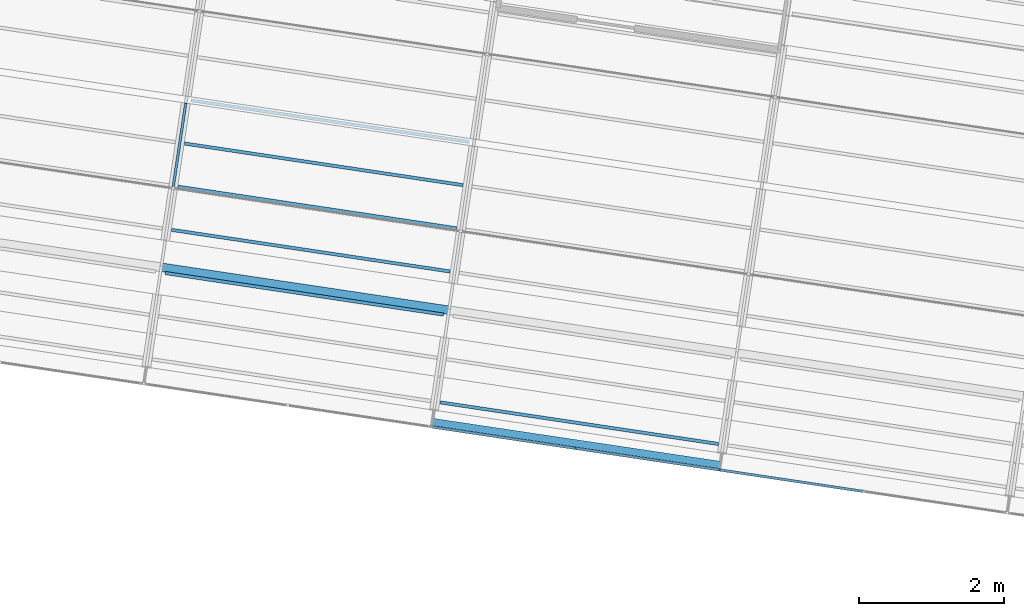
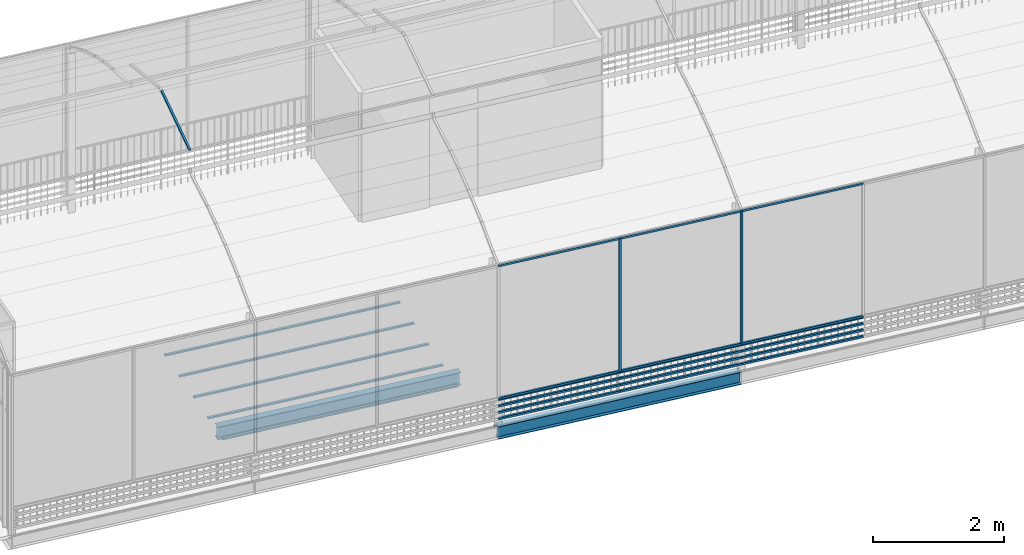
# One storey, part 4 of 34: 23 members, 8 beams, 1 element without a shape of its own.
"""IFC4 building model written with IfcOpenShell, lengths in metres."""

import ifcopenshell
import ifcopenshell.guid

model = None  # the IFC model being written
_history = None  # IfcOwnerHistory: only IFC2X3 demands one
_inside = {}  # id of a spatial element -> (the spatial element, [elements in it])
_under = {}  # id of a project, library or spatial element -> (it, [spatial elements below it])
_declared = {}  # id of a project -> (the project, [libraries it declares])
_typed = {}  # id of a type object -> (the type object, [elements of that type])
_made_of = {}  # id of a material, layer set ... -> (it, [elements and type objects made of it])


def new_model(schema):
    """Start an empty IFC model of exactly this schema.

    Asked for "IFC4X3", IfcOpenShell would pick the latest addendum, in which some entities
    have other attributes; the version numbers below select the first issue.
    IFC2X3 requires an IfcOwnerHistory on every rooted entity: one is made here for all.
    """
    global model, _history
    if schema == "IFC4X3":
        model = ifcopenshell.file(schema_version=(4, 3, 0, 0))
    else:
        model = ifcopenshell.file(schema=schema)
    _inside.clear()
    _under.clear()
    _declared.clear()
    _typed.clear()
    _made_of.clear()
    _history = None
    if model.schema == "IFC2X3":
        org = make("IfcOrganization", Name="unknown")
        user = make(
            "IfcPersonAndOrganization",
            ThePerson=make("IfcPerson", FamilyName="unknown"),
            TheOrganization=org,
        )
        app = make(
            "IfcApplication",
            ApplicationDeveloper=org,
            Version="unknown",
            ApplicationFullName="unknown",
            ApplicationIdentifier="unknown",
        )
        _history = make(
            "IfcOwnerHistory",
            OwningUser=user,
            OwningApplication=app,
            ChangeAction="ADDED",
            CreationDate=0,
        )
    return model


def make(cls, **values):
    """One entity of the class cls with the attributes given. An attribute that is None is left unset."""
    return model.create_entity(
        cls, **{name: value for name, value in values.items() if value is not None}
    )


def rooted(cls, **values):
    """An entity with a GlobalId (a new one), such as an element, a storey or a relation."""
    return make(cls, GlobalId=ifcopenshell.guid.new(), OwnerHistory=_history, **values)


def si_unit(unit_type, name, prefix=None):
    """IfcSIUnit, for example si_unit("LENGTHUNIT", "METRE", prefix="MILLI")."""
    return make("IfcSIUnit", UnitType=unit_type, Prefix=prefix, Name=name)


def assignment(units):
    """IfcUnitAssignment: the units of a project."""
    return None if units is None else make("IfcUnitAssignment", Units=units)


def point(xyz):
    """IfcCartesianPoint."""
    return None if xyz is None else make("IfcCartesianPoint", Coordinates=xyz)


def direction(xyz):
    """IfcDirection."""
    return None if xyz is None else make("IfcDirection", DirectionRatios=xyz)


def frame(location, z_axis=None, x_axis=None):
    """IfcAxis2Placement3D, a coordinate frame: its origin and axes. An axis left out is left unset."""
    return make(
        "IfcAxis2Placement3D",
        Location=point(location),
        Axis=direction(z_axis),
        RefDirection=direction(x_axis),
    )


def origin_with_axes():
    """The frame at (0, 0, 0) with the z axis (0, 0, 1) and the x axis (1, 0, 0) written out."""
    return frame((0.0, 0.0, 0.0), z_axis=(0.0, 0.0, 1.0), x_axis=(1.0, 0.0, 0.0))


def place(relative_to, where):
    """IfcLocalPlacement: puts the frame where relative to a parent placement (None: the world)."""
    return make(
        "IfcLocalPlacement", PlacementRelTo=relative_to, RelativePlacement=where
    )


def context(
    kind, dimensions, precision=None, world=None, true_north=None, identifier=None
):
    """IfcGeometricRepresentationContext, for example the 3D "Model" context."""
    return make(
        "IfcGeometricRepresentationContext",
        ContextIdentifier=identifier,
        ContextType=kind,
        CoordinateSpaceDimension=dimensions,
        Precision=precision,
        WorldCoordinateSystem=world,
        TrueNorth=true_north,
    )


def subcontext(parent, identifier, kind, view, scale=None):
    """IfcGeometricRepresentationSubContext, for example "Body" below "Model"."""
    return make(
        "IfcGeometricRepresentationSubContext",
        ContextIdentifier=identifier,
        ContextType=kind,
        ParentContext=parent,
        TargetScale=scale,
        TargetView=view,
    )


def project(units=None, contexts=None):
    """IfcProject with its units and contexts."""
    return rooted(
        "IfcProject",
        Name="project",
        RepresentationContexts=contexts,
        UnitsInContext=assignment(units),
    )


def spatial(cls, under=None, at=None, **own):
    """A site, building, storey or space (cls), placed at a placement, below another one or the project."""
    s = rooted(cls, ObjectPlacement=at, **own)
    if under is not None:
        _under.setdefault(under.id(), (under, []))[1].append(s)
    return s


def polyline(points):
    """IfcPolyline through the points."""
    return make("IfcPolyline", Points=[point(p) for p in points])


def profile(cls, at=None, kind="AREA", **sizes):
    """A parametric profile (cls). Its sizes go by their IFC names, for example OverallWidth=200.0."""
    return make(cls, ProfileType=kind, Position=at, **sizes)


def rectangle(**sizes):
    """IfcRectangleProfileDef."""
    return profile("IfcRectangleProfileDef", **sizes)


def i_section(**sizes):
    """IfcIShapeProfileDef."""
    return profile("IfcIShapeProfileDef", **sizes)


def outline(outer, holes=None, kind="AREA"):
    """IfcArbitraryClosedProfileDef: a profile drawn as a closed curve; with holes, ...WithVoids."""
    if holes is None:
        return make("IfcArbitraryClosedProfileDef", ProfileType=kind, OuterCurve=outer)
    return make(
        "IfcArbitraryProfileDefWithVoids",
        ProfileType=kind,
        OuterCurve=outer,
        InnerCurves=holes,
    )


def extrude(swept, where, along, depth):
    """IfcExtrudedAreaSolid: the profile swept, set in the frame where, extruded along a direction by depth."""
    return make(
        "IfcExtrudedAreaSolid",
        SweptArea=swept,
        Position=where,
        ExtrudedDirection=direction(along),
        Depth=depth,
    )


def shape(context_of_items, identifier, shape_type, items):
    """IfcShapeRepresentation: the items that make up one representation, for example the "Body"."""
    return make(
        "IfcShapeRepresentation",
        ContextOfItems=context_of_items,
        RepresentationIdentifier=identifier,
        RepresentationType=shape_type,
        Items=items,
    )


def material(Name=None, Category=None):
    """IfcMaterial."""
    return make("IfcMaterial", Name=Name, Category=Category)


def material_profile(
    of_material, cross_section, Name=None, Category=None, Priority=None
):
    """IfcMaterialProfile: a cross section and its material."""
    return make(
        "IfcMaterialProfile",
        Name=Name,
        Material=of_material,
        Profile=cross_section,
        Priority=Priority,
        Category=Category,
    )


def profile_set(profiles, Name=None, composite=None):
    """IfcMaterialProfileSet."""
    return make(
        "IfcMaterialProfileSet",
        Name=Name,
        MaterialProfiles=profiles,
        CompositeProfile=composite,
    )


def profile_usage(for_profile_set, cardinal=None, extent=None):
    """IfcMaterialProfileSetUsage: how a profile set lies along its element."""
    return make(
        "IfcMaterialProfileSetUsage",
        ForProfileSet=for_profile_set,
        CardinalPoint=cardinal,
        ReferenceExtent=extent,
    )


def made_of(thing, what):
    """Note that an element or type object is made of a material, layer set ...; save() writes the relation."""
    if what is not None:
        _made_of.setdefault(what.id(), (what, []))[1].append(thing)
    return thing


def type_object(cls, material=None, **own):
    """A type object (cls), such as IfcWallType, which elements share."""
    return made_of(rooted(cls, **own), material)


def element(
    cls,
    number,
    at=None,
    inside=None,
    cuts=None,
    type_object=None,
    material=None,
    context=None,
    identifier="Body",
    shape_type=None,
    held_by="IfcProductDefinitionShape",
    body=None,
    shapes=None,
    **own,
):
    """One element of the class cls, such as IfcWall. Its Tag is "e" and its number.

    at: its placement. inside: the storey or other place that contains it. cuts: it is an
    opening in that element (IfcRelVoidsElement). A single representation is given by context,
    identifier, shape_type and body (its items); several are given by shapes. held_by: the class
    of the entity that holds the representations. save() writes the other relations.
    """
    e = rooted(cls, Tag="e%d" % number, ObjectPlacement=at, **own)
    if body is not None:
        shapes = [shape(context, identifier, shape_type, body)]
    if shapes is not None:
        e.Representation = make(held_by, Representations=shapes)
    if inside is not None:
        _inside.setdefault(inside.id(), (inside, []))[1].append(e)
    if cuts is not None:
        rooted(
            "IfcRelVoidsElement", RelatingBuildingElement=cuts, RelatedOpeningElement=e
        )
    if type_object is not None:
        _typed.setdefault(type_object.id(), (type_object, []))[1].append(e)
    return made_of(e, material)


def aggregate(whole, parts):
    """IfcRelAggregates: a whole, such as a stair, and the parts it consists of."""
    return rooted("IfcRelAggregates", RelatingObject=whole, RelatedObjects=parts)


def save(model, path):
    """Write the relations noted so far, then the file.

    IfcRelAggregates (storeys below a building ...), IfcRelContainedInSpatialStructure (elements
    in a storey), IfcRelDefinesByType, IfcRelAssociatesMaterial and IfcRelDeclares: one each for
    every whole, place, type object, material and project.
    """
    for whole, parts in _under.values():
        aggregate(whole, parts)
    for where, things in _inside.values():
        rooted(
            "IfcRelContainedInSpatialStructure",
            RelatedElements=things,
            RelatingStructure=where,
        )
    for kind, things in _typed.values():
        rooted("IfcRelDefinesByType", RelatedObjects=things, RelatingType=kind)
    for what, things in _made_of.values():
        rooted("IfcRelAssociatesMaterial", RelatedObjects=things, RelatingMaterial=what)
    for by, libraries in _declared.values():
        rooted("IfcRelDeclares", RelatingContext=by, RelatedDefinitions=libraries)
    model.write(path)


model = new_model("IFC4")

# Units and contexts
model_context = context("Model", 3, precision=1e-05, world=origin_with_axes(), true_north=direction((0.0, 1.0)))
body_context = subcontext(model_context, "Body", "Model", "MODEL_VIEW")
ifc_project = project(units=[si_unit("AREAUNIT", "SQUARE_METRE"), si_unit("VOLUMEUNIT", "CUBIC_METRE"), si_unit("LENGTHUNIT", "METRE")], contexts=[model_context])

# Site, building, storey
site_placement = place(None, origin_with_axes())
site = spatial("IfcSite", under=ifc_project, at=site_placement, Name="Lares · Rua das Mercês · artigo 4771")
building_placement = place(site_placement, frame((15.0, 9.7, 14.65), z_axis=(0.0, 0.0, 1.0), x_axis=(0.989015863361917, -0.147809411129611, 0.0)))
building = spatial("IfcBuilding", under=site, at=building_placement, Name="Casa Sobreposta")
storey_placement = place(building_placement, frame((0.0, 0.0, 3.24), z_axis=(0.0, 0.0, 1.0), x_axis=(1.0, 0.0, 0.0)))
storey = spatial("IfcBuildingStorey", under=building, at=storey_placement, Name="01 · Jardim de inverno", Elevation=17.89)

# Beams
ifc_material_1 = material(Name="Aço pintado / Stahl lackiert", Category="steel")
ifc_material_profile_1 = material_profile(ifc_material_1, i_section(OverallWidth=0.12, OverallDepth=0.24, WebThickness=0.0062, FlangeThickness=0.0098))
ifc_profile_set_1 = profile_set([ifc_material_profile_1], Name="IPE240")
ifc_profile_usage_1 = profile_usage(ifc_profile_set_1)
beam_type = type_object("IfcBeamType", Name="IPE240 / steel", PredefinedType="NOTDEFINED", material=ifc_profile_set_1)
beam_1_placement = place(storey_placement, frame((4.0, 0.12, -0.152), z_axis=(1.0, 0.0, 0.0), x_axis=(0.0, -1.0, 0.0)))
element("IfcBeam", 1, at=beam_1_placement, inside=storey, type_object=beam_type, material=ifc_profile_usage_1, Name="Viga longitudinal 4 / 0.12", context=body_context, shape_type="SweptSolid", body=[
    extrude(i_section(OverallWidth=0.12, OverallDepth=0.24, WebThickness=0.0062, FlangeThickness=0.0098), origin_with_axes(), (0.0, 0.0, 1.0), 4.0),
])
ifc_profile_usage_2 = profile_usage(ifc_profile_set_1)
beam_2_placement = place(storey_placement, frame((8.0, -1.44, -0.152), z_axis=(1.0, 0.0, 0.0), x_axis=(0.0, -1.0, 0.0)))
element("IfcBeam", 2, at=beam_2_placement, inside=storey, type_object=beam_type, material=ifc_profile_usage_2, Name="Viga longitudinal 8 / -1.44", context=body_context, shape_type="SweptSolid", body=[
    extrude(i_section(OverallWidth=0.12, OverallDepth=0.24, WebThickness=0.0062, FlangeThickness=0.0098), origin_with_axes(), (0.0, 0.0, 1.0), 4.0),
])

# Members
ifc_material_profile_2 = material_profile(ifc_material_1, rectangle(XDim=0.035, YDim=0.035))
ifc_profile_set_2 = profile_set([ifc_material_profile_2], Name="R0.035")
ifc_profile_usage_3 = profile_usage(ifc_profile_set_2)
member_type = type_object("IfcMemberType", Name="R0.035 / steel", PredefinedType="NOTDEFINED", material=ifc_profile_set_2)
member_1_placement = place(storey_placement, frame((10.0, -1.5, 0.5), z_axis=(0.0, 0.0, 1.0), x_axis=(1.0, 0.0, 0.0)))
element("IfcMember", 3, at=member_1_placement, inside=storey, type_object=member_type, material=ifc_profile_usage_3, context=body_context, shape_type="SweptSolid", body=[
    extrude(rectangle(XDim=0.035, YDim=0.035), origin_with_axes(), (0.0, 0.0, 1.0), 2.48),
])
ifc_profile_usage_4 = profile_usage(ifc_profile_set_2)
member_2_placement = place(storey_placement, frame((8.0, -1.5, 0.5), z_axis=(1.0, 0.0, 0.0), x_axis=(0.0, -1.0, 0.0)))
element("IfcMember", 4, at=member_2_placement, inside=storey, type_object=member_type, material=ifc_profile_usage_4, Name="Estufa sul 5 · travessa", context=body_context, shape_type="SweptSolid", body=[
    extrude(rectangle(XDim=0.035, YDim=0.035), origin_with_axes(), (0.0, 0.0, 1.0), 2.0),
])
ifc_profile_usage_5 = profile_usage(ifc_profile_set_2)
member_3_placement = place(storey_placement, frame((8.0, -1.5, 2.98), z_axis=(1.0, 0.0, 0.0), x_axis=(0.0, -1.0, 0.0)))
element("IfcMember", 5, at=member_3_placement, inside=storey, type_object=member_type, material=ifc_profile_usage_5, Name="Estufa sul 5 · travessa", context=body_context, shape_type="SweptSolid", body=[
    extrude(rectangle(XDim=0.035, YDim=0.035), origin_with_axes(), (0.0, 0.0, 1.0), 2.0),
])
ifc_profile_usage_6 = profile_usage(ifc_profile_set_2)
member_4_placement = place(storey_placement, frame((8.0, -1.5, 0.12), z_axis=(1.0, 0.0, 0.0), x_axis=(0.0, -1.0, 0.0)))
element("IfcMember", 6, at=member_4_placement, inside=storey, type_object=member_type, material=ifc_profile_usage_6, Name="Entrada de ar sul 5", context=body_context, shape_type="SweptSolid", body=[
    extrude(rectangle(XDim=0.035, YDim=0.035), origin_with_axes(), (0.0, 0.0, 1.0), 2.0),
])
ifc_profile_usage_7 = profile_usage(ifc_profile_set_2)
member_5_placement = place(storey_placement, frame((8.0, -1.5, 0.24), z_axis=(1.0, 0.0, 0.0), x_axis=(0.0, -1.0, 0.0)))
element("IfcMember", 7, at=member_5_placement, inside=storey, type_object=member_type, material=ifc_profile_usage_7, Name="Entrada de ar sul 5", context=body_context, shape_type="SweptSolid", body=[
    extrude(rectangle(XDim=0.035, YDim=0.035), origin_with_axes(), (0.0, 0.0, 1.0), 2.0),
])
ifc_profile_usage_8 = profile_usage(ifc_profile_set_2)
member_6_placement = place(storey_placement, frame((8.0, -1.5, 0.36), z_axis=(1.0, 0.0, 0.0), x_axis=(0.0, -1.0, 0.0)))
element("IfcMember", 8, at=member_6_placement, inside=storey, type_object=member_type, material=ifc_profile_usage_8, Name="Entrada de ar sul 5", context=body_context, shape_type="SweptSolid", body=[
    extrude(rectangle(XDim=0.035, YDim=0.035), origin_with_axes(), (0.0, 0.0, 1.0), 2.0),
])
ifc_profile_usage_9 = profile_usage(ifc_profile_set_2)
member_7_placement = place(storey_placement, frame((8.0, -1.5, 0.48), z_axis=(1.0, 0.0, 0.0), x_axis=(0.0, -1.0, 0.0)))
element("IfcMember", 9, at=member_7_placement, inside=storey, type_object=member_type, material=ifc_profile_usage_9, Name="Entrada de ar sul 5", context=body_context, shape_type="SweptSolid", body=[
    extrude(rectangle(XDim=0.035, YDim=0.035), origin_with_axes(), (0.0, 0.0, 1.0), 2.0),
])
ifc_profile_usage_10 = profile_usage(ifc_profile_set_2)
member_8_placement = place(storey_placement, frame((10.0, -1.5, 0.5), z_axis=(0.0, 0.0, 1.0), x_axis=(1.0, 0.0, 0.0)))
element("IfcMember", 10, at=member_8_placement, inside=storey, type_object=member_type, material=ifc_profile_usage_10, context=body_context, shape_type="SweptSolid", body=[
    extrude(rectangle(XDim=0.035, YDim=0.035), origin_with_axes(), (0.0, 0.0, 1.0), 2.48),
])
ifc_profile_usage_11 = profile_usage(ifc_profile_set_2)
member_9_placement = place(storey_placement, frame((12.0, -1.5, 0.5), z_axis=(0.0, 0.0, 1.0), x_axis=(1.0, 0.0, 0.0)))
element("IfcMember", 11, at=member_9_placement, inside=storey, type_object=member_type, material=ifc_profile_usage_11, context=body_context, shape_type="SweptSolid", body=[
    extrude(rectangle(XDim=0.035, YDim=0.035), origin_with_axes(), (0.0, 0.0, 1.0), 2.48),
])
ifc_profile_usage_12 = profile_usage(ifc_profile_set_2)
member_10_placement = place(storey_placement, frame((10.0, -1.5, 0.5), z_axis=(1.0, 0.0, 0.0), x_axis=(0.0, -1.0, 0.0)))
element("IfcMember", 12, at=member_10_placement, inside=storey, type_object=member_type, material=ifc_profile_usage_12, Name="Estufa sul 6 · travessa", context=body_context, shape_type="SweptSolid", body=[
    extrude(rectangle(XDim=0.035, YDim=0.035), origin_with_axes(), (0.0, 0.0, 1.0), 2.0),
])
ifc_profile_usage_13 = profile_usage(ifc_profile_set_2)
member_11_placement = place(storey_placement, frame((10.0, -1.5, 2.98), z_axis=(1.0, 0.0, 0.0), x_axis=(0.0, -1.0, 0.0)))
element("IfcMember", 13, at=member_11_placement, inside=storey, type_object=member_type, material=ifc_profile_usage_13, Name="Estufa sul 6 · travessa", context=body_context, shape_type="SweptSolid", body=[
    extrude(rectangle(XDim=0.035, YDim=0.035), origin_with_axes(), (0.0, 0.0, 1.0), 2.0),
])
ifc_profile_usage_14 = profile_usage(ifc_profile_set_2)
member_12_placement = place(storey_placement, frame((10.0, -1.5, 0.12), z_axis=(1.0, 0.0, 0.0), x_axis=(0.0, -1.0, 0.0)))
element("IfcMember", 14, at=member_12_placement, inside=storey, type_object=member_type, material=ifc_profile_usage_14, Name="Entrada de ar sul 6", context=body_context, shape_type="SweptSolid", body=[
    extrude(rectangle(XDim=0.035, YDim=0.035), origin_with_axes(), (0.0, 0.0, 1.0), 2.0),
])
ifc_profile_usage_15 = profile_usage(ifc_profile_set_2)
member_13_placement = place(storey_placement, frame((10.0, -1.5, 0.24), z_axis=(1.0, 0.0, 0.0), x_axis=(0.0, -1.0, 0.0)))
element("IfcMember", 15, at=member_13_placement, inside=storey, type_object=member_type, material=ifc_profile_usage_15, Name="Entrada de ar sul 6", context=body_context, shape_type="SweptSolid", body=[
    extrude(rectangle(XDim=0.035, YDim=0.035), origin_with_axes(), (0.0, 0.0, 1.0), 2.0),
])
ifc_profile_usage_16 = profile_usage(ifc_profile_set_2)
member_14_placement = place(storey_placement, frame((10.0, -1.5, 0.36), z_axis=(1.0, 0.0, 0.0), x_axis=(0.0, -1.0, 0.0)))
element("IfcMember", 16, at=member_14_placement, inside=storey, type_object=member_type, material=ifc_profile_usage_16, Name="Entrada de ar sul 6", context=body_context, shape_type="SweptSolid", body=[
    extrude(rectangle(XDim=0.035, YDim=0.035), origin_with_axes(), (0.0, 0.0, 1.0), 2.0),
])
ifc_profile_usage_17 = profile_usage(ifc_profile_set_2)
member_15_placement = place(storey_placement, frame((10.0, -1.5, 0.48), z_axis=(1.0, 0.0, 0.0), x_axis=(0.0, -1.0, 0.0)))
element("IfcMember", 17, at=member_15_placement, inside=storey, type_object=member_type, material=ifc_profile_usage_17, Name="Entrada de ar sul 6", context=body_context, shape_type="SweptSolid", body=[
    extrude(rectangle(XDim=0.035, YDim=0.035), origin_with_axes(), (0.0, 0.0, 1.0), 2.0),
])
ifc_profile_usage_18 = profile_usage(ifc_profile_set_2)
member_16_placement = place(storey_placement, frame((12.0, -1.5, 0.5), z_axis=(0.0, 0.0, 1.0), x_axis=(1.0, 0.0, 0.0)))
element("IfcMember", 18, at=member_16_placement, inside=storey, type_object=member_type, material=ifc_profile_usage_18, context=body_context, shape_type="SweptSolid", body=[
    extrude(rectangle(XDim=0.035, YDim=0.035), origin_with_axes(), (0.0, 0.0, 1.0), 2.48),
])
ifc_profile_usage_19 = profile_usage(ifc_profile_set_2)
member_17_placement = place(storey_placement, frame((12.0, -1.5, 0.5), z_axis=(1.0, 0.0, 0.0), x_axis=(0.0, -1.0, 0.0)))
element("IfcMember", 19, at=member_17_placement, inside=storey, type_object=member_type, material=ifc_profile_usage_19, Name="Estufa sul 7 · travessa", context=body_context, shape_type="SweptSolid", body=[
    extrude(rectangle(XDim=0.035, YDim=0.035), origin_with_axes(), (0.0, 0.0, 1.0), 2.0),
])
ifc_profile_usage_20 = profile_usage(ifc_profile_set_2)
member_18_placement = place(storey_placement, frame((12.0, -1.5, 2.98), z_axis=(1.0, 0.0, 0.0), x_axis=(0.0, -1.0, 0.0)))
element("IfcMember", 20, at=member_18_placement, inside=storey, type_object=member_type, material=ifc_profile_usage_20, Name="Estufa sul 7 · travessa", context=body_context, shape_type="SweptSolid", body=[
    extrude(rectangle(XDim=0.035, YDim=0.035), origin_with_axes(), (0.0, 0.0, 1.0), 2.0),
])
ifc_profile_usage_21 = profile_usage(ifc_profile_set_2)
member_19_placement = place(storey_placement, frame((12.0, -1.5, 0.12), z_axis=(1.0, 0.0, 0.0), x_axis=(0.0, -1.0, 0.0)))
element("IfcMember", 21, at=member_19_placement, inside=storey, type_object=member_type, material=ifc_profile_usage_21, Name="Entrada de ar sul 7", context=body_context, shape_type="SweptSolid", body=[
    extrude(rectangle(XDim=0.035, YDim=0.035), origin_with_axes(), (0.0, 0.0, 1.0), 2.0),
])
ifc_profile_usage_22 = profile_usage(ifc_profile_set_2)
member_20_placement = place(storey_placement, frame((12.0, -1.5, 0.24), z_axis=(1.0, 0.0, 0.0), x_axis=(0.0, -1.0, 0.0)))
element("IfcMember", 22, at=member_20_placement, inside=storey, type_object=member_type, material=ifc_profile_usage_22, Name="Entrada de ar sul 7", context=body_context, shape_type="SweptSolid", body=[
    extrude(rectangle(XDim=0.035, YDim=0.035), origin_with_axes(), (0.0, 0.0, 1.0), 2.0),
])
ifc_profile_usage_23 = profile_usage(ifc_profile_set_2)
member_21_placement = place(storey_placement, frame((12.0, -1.5, 0.36), z_axis=(1.0, 0.0, 0.0), x_axis=(0.0, -1.0, 0.0)))
element("IfcMember", 23, at=member_21_placement, inside=storey, type_object=member_type, material=ifc_profile_usage_23, Name="Entrada de ar sul 7", context=body_context, shape_type="SweptSolid", body=[
    extrude(rectangle(XDim=0.035, YDim=0.035), origin_with_axes(), (0.0, 0.0, 1.0), 2.0),
])
ifc_profile_usage_24 = profile_usage(ifc_profile_set_2)
member_22_placement = place(storey_placement, frame((12.0, -1.5, 0.48), z_axis=(1.0, 0.0, 0.0), x_axis=(0.0, -1.0, 0.0)))
element("IfcMember", 24, at=member_22_placement, inside=storey, type_object=member_type, material=ifc_profile_usage_24, Name="Entrada de ar sul 7", context=body_context, shape_type="SweptSolid", body=[
    extrude(rectangle(XDim=0.035, YDim=0.035), origin_with_axes(), (0.0, 0.0, 1.0), 2.0),
])

# Roof, member
ifc_material_2 = material(Name="Vidro / Normalglas", Category="glass")
roof_placement = place(storey_placement, frame((0.0, 0.0, -3.24), z_axis=(0.0, 0.0, 1.0), x_axis=(1.0, 0.0, 0.0)))
roof = element("IfcRoof", 25, at=roof_placement, inside=storey, material=ifc_material_2, Name="Cobertura translúcida da estufa", PredefinedType="BARREL_ROOF")
ifc_profile_usage_25 = profile_usage(ifc_profile_set_2)
member_23_placement = place(roof_placement, frame((4.0, 1.22042020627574, 7.62067689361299), z_axis=(0.0, 0.960073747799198, 0.279747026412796), x_axis=(1.0, 0.0, 0.0)))
member_23 = element("IfcMember", 26, at=member_23_placement, type_object=member_type, material=ifc_profile_usage_25, Name="Arco estufa 4/7", context=body_context, shape_type="SweptSolid", body=[
    extrude(rectangle(XDim=0.035, YDim=0.035), origin_with_axes(), (0.0, 0.0, 1.0), 1.23148937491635),
])
aggregate(roof, [member_23])

# Beams
ifc_material_3 = material(Name="Madeira / Bauholz", Category="wood")
ifc_material_profile_3 = material_profile(ifc_material_3, outline(polyline([(0.022225, -0.12), (0.022225, -0.092), (-0.022225, -0.092), (-0.022225, -0.12), (0.022225, -0.12)])))
ifc_material_4 = material(Name="OSB", Category="wood")
ifc_material_profile_4 = material_profile(ifc_material_4, outline(polyline([(0.0047625, -0.092), (0.0047625, 0.092), (-0.0047625, 0.092), (-0.0047625, -0.092), (0.0047625, -0.092)])))
ifc_material_profile_5 = material_profile(ifc_material_3, outline(polyline([(0.022225, 0.092), (0.022225, 0.12), (-0.022225, 0.12), (-0.022225, 0.092), (0.022225, 0.092)])))
ifc_profile_set_3 = profile_set([ifc_material_profile_3, ifc_material_profile_4, ifc_material_profile_5], Name="TJI240 · madeira / OSB")
ifc_profile_usage_26 = profile_usage(ifc_profile_set_3)
beam_3_placement = place(storey_placement, frame((8.065, -1.15, -0.152), z_axis=(1.0, 0.0, 0.0), x_axis=(0.0, 1.0, 0.0)))
element("IfcBeam", 27, at=beam_3_placement, inside=storey, material=ifc_profile_usage_26, Name="TJI240 · 8.065 / -1.15", context=body_context, shape_type="SweptSolid", body=[
    extrude(outline(polyline([(0.022225, -0.12), (0.022225, -0.092), (-0.022225, -0.092), (-0.022225, -0.12), (0.022225, -0.12)])), origin_with_axes(), (0.0, 0.0, 1.0), 3.87),
    extrude(outline(polyline([(0.022225, -0.12), (0.022225, -0.092), (-0.022225, -0.092), (-0.022225, -0.12), (0.022225, -0.12)])), origin_with_axes(), (0.0, 0.0, 1.0), 3.87),
    extrude(outline(polyline([(0.022225, -0.12), (0.022225, -0.092), (-0.022225, -0.092), (-0.022225, -0.12), (0.022225, -0.12)])), origin_with_axes(), (0.0, 0.0, 1.0), 3.87),
])
ifc_material_profile_6 = material_profile(ifc_material_3, outline(polyline([(0.022225, -0.12), (0.022225, -0.092), (-0.022225, -0.092), (-0.022225, -0.12), (0.022225, -0.12)])))
ifc_material_profile_7 = material_profile(ifc_material_4, outline(polyline([(0.0047625, -0.092), (0.0047625, 0.092), (-0.0047625, 0.092), (-0.0047625, -0.092), (0.0047625, -0.092)])))
ifc_material_profile_8 = material_profile(ifc_material_3, outline(polyline([(0.022225, 0.092), (0.022225, 0.12), (-0.022225, 0.12), (-0.022225, 0.092), (0.022225, 0.092)])))
ifc_profile_set_4 = profile_set([ifc_material_profile_6, ifc_material_profile_7, ifc_material_profile_8], Name="TJI240 · madeira / OSB")
ifc_profile_usage_27 = profile_usage(ifc_profile_set_4)
beam_4_placement = place(storey_placement, frame((4.065, 0.05, -0.152), z_axis=(1.0, 0.0, 0.0), x_axis=(0.0, 1.0, 0.0)))
element("IfcBeam", 28, at=beam_4_placement, inside=storey, material=ifc_profile_usage_27, Name="TJI240 · 4.065 / 0.05", context=body_context, shape_type="SweptSolid", body=[
    extrude(outline(polyline([(0.022225, -0.12), (0.022225, -0.092), (-0.022225, -0.092), (-0.022225, -0.12), (0.022225, -0.12)])), origin_with_axes(), (0.0, 0.0, 1.0), 3.87),
    extrude(outline(polyline([(0.022225, -0.12), (0.022225, -0.092), (-0.022225, -0.092), (-0.022225, -0.12), (0.022225, -0.12)])), origin_with_axes(), (0.0, 0.0, 1.0), 3.87),
    extrude(outline(polyline([(0.022225, -0.12), (0.022225, -0.092), (-0.022225, -0.092), (-0.022225, -0.12), (0.022225, -0.12)])), origin_with_axes(), (0.0, 0.0, 1.0), 3.87),
])
ifc_material_profile_9 = material_profile(ifc_material_3, outline(polyline([(0.022225, -0.12), (0.022225, -0.092), (-0.022225, -0.092), (-0.022225, -0.12), (0.022225, -0.12)])))
ifc_material_profile_10 = material_profile(ifc_material_4, outline(polyline([(0.0047625, -0.092), (0.0047625, 0.092), (-0.0047625, 0.092), (-0.0047625, -0.092), (0.0047625, -0.092)])))
ifc_material_profile_11 = material_profile(ifc_material_3, outline(polyline([(0.022225, 0.092), (0.022225, 0.12), (-0.022225, 0.12), (-0.022225, 0.092), (0.022225, 0.092)])))
ifc_profile_set_5 = profile_set([ifc_material_profile_9, ifc_material_profile_10, ifc_material_profile_11], Name="TJI240 · madeira / OSB")
ifc_profile_usage_28 = profile_usage(ifc_profile_set_5)
beam_5_placement = place(storey_placement, frame((4.065, 0.65, -0.152), z_axis=(1.0, 0.0, 0.0), x_axis=(0.0, 1.0, 0.0)))
element("IfcBeam", 29, at=beam_5_placement, inside=storey, material=ifc_profile_usage_28, Name="TJI240 · 4.065 / 0.65", context=body_context, shape_type="SweptSolid", body=[
    extrude(outline(polyline([(0.022225, -0.12), (0.022225, -0.092), (-0.022225, -0.092), (-0.022225, -0.12), (0.022225, -0.12)])), origin_with_axes(), (0.0, 0.0, 1.0), 3.87),
    extrude(outline(polyline([(0.022225, -0.12), (0.022225, -0.092), (-0.022225, -0.092), (-0.022225, -0.12), (0.022225, -0.12)])), origin_with_axes(), (0.0, 0.0, 1.0), 3.87),
    extrude(outline(polyline([(0.022225, -0.12), (0.022225, -0.092), (-0.022225, -0.092), (-0.022225, -0.12), (0.022225, -0.12)])), origin_with_axes(), (0.0, 0.0, 1.0), 3.87),
])
ifc_material_profile_12 = material_profile(ifc_material_3, outline(polyline([(0.022225, -0.12), (0.022225, -0.092), (-0.022225, -0.092), (-0.022225, -0.12), (0.022225, -0.12)])))
ifc_material_profile_13 = material_profile(ifc_material_4, outline(polyline([(0.0047625, -0.092), (0.0047625, 0.092), (-0.0047625, 0.092), (-0.0047625, -0.092), (0.0047625, -0.092)])))
ifc_material_profile_14 = material_profile(ifc_material_3, outline(polyline([(0.022225, 0.092), (0.022225, 0.12), (-0.022225, 0.12), (-0.022225, 0.092), (0.022225, 0.092)])))
ifc_profile_set_6 = profile_set([ifc_material_profile_12, ifc_material_profile_13, ifc_material_profile_14], Name="TJI240 · madeira / OSB")
ifc_profile_usage_29 = profile_usage(ifc_profile_set_6)
beam_6_placement = place(storey_placement, frame((4.065, 1.25, -0.152), z_axis=(1.0, 0.0, 0.0), x_axis=(0.0, 1.0, 0.0)))
element("IfcBeam", 30, at=beam_6_placement, inside=storey, material=ifc_profile_usage_29, Name="TJI240 · 4.065 / 1.25", context=body_context, shape_type="SweptSolid", body=[
    extrude(outline(polyline([(0.022225, -0.12), (0.022225, -0.092), (-0.022225, -0.092), (-0.022225, -0.12), (0.022225, -0.12)])), origin_with_axes(), (0.0, 0.0, 1.0), 3.87),
    extrude(outline(polyline([(0.022225, -0.12), (0.022225, -0.092), (-0.022225, -0.092), (-0.022225, -0.12), (0.022225, -0.12)])), origin_with_axes(), (0.0, 0.0, 1.0), 3.87),
    extrude(outline(polyline([(0.022225, -0.12), (0.022225, -0.092), (-0.022225, -0.092), (-0.022225, -0.12), (0.022225, -0.12)])), origin_with_axes(), (0.0, 0.0, 1.0), 3.87),
])
ifc_material_profile_15 = material_profile(ifc_material_3, outline(polyline([(0.022225, -0.12), (0.022225, -0.092), (-0.022225, -0.092), (-0.022225, -0.12), (0.022225, -0.12)])))
ifc_material_profile_16 = material_profile(ifc_material_4, outline(polyline([(0.0047625, -0.092), (0.0047625, 0.092), (-0.0047625, 0.092), (-0.0047625, -0.092), (0.0047625, -0.092)])))
ifc_material_profile_17 = material_profile(ifc_material_3, outline(polyline([(0.022225, 0.092), (0.022225, 0.12), (-0.022225, 0.12), (-0.022225, 0.092), (0.022225, 0.092)])))
ifc_profile_set_7 = profile_set([ifc_material_profile_15, ifc_material_profile_16, ifc_material_profile_17], Name="TJI240 · madeira / OSB")
ifc_profile_usage_30 = profile_usage(ifc_profile_set_7)
beam_7_placement = place(storey_placement, frame((4.065, 1.85, -0.152), z_axis=(1.0, 0.0, 0.0), x_axis=(0.0, 1.0, 0.0)))
element("IfcBeam", 31, at=beam_7_placement, inside=storey, material=ifc_profile_usage_30, Name="TJI240 · 4.065 / 1.85", context=body_context, shape_type="SweptSolid", body=[
    extrude(outline(polyline([(0.022225, -0.12), (0.022225, -0.092), (-0.022225, -0.092), (-0.022225, -0.12), (0.022225, -0.12)])), origin_with_axes(), (0.0, 0.0, 1.0), 3.87),
    extrude(outline(polyline([(0.022225, -0.12), (0.022225, -0.092), (-0.022225, -0.092), (-0.022225, -0.12), (0.022225, -0.12)])), origin_with_axes(), (0.0, 0.0, 1.0), 3.87),
    extrude(outline(polyline([(0.022225, -0.12), (0.022225, -0.092), (-0.022225, -0.092), (-0.022225, -0.12), (0.022225, -0.12)])), origin_with_axes(), (0.0, 0.0, 1.0), 3.87),
])
ifc_material_profile_18 = material_profile(ifc_material_3, outline(polyline([(0.022225, -0.12), (0.022225, -0.092), (-0.022225, -0.092), (-0.022225, -0.12), (0.022225, -0.12)])))
ifc_material_profile_19 = material_profile(ifc_material_4, outline(polyline([(0.0047625, -0.092), (0.0047625, 0.092), (-0.0047625, 0.092), (-0.0047625, -0.092), (0.0047625, -0.092)])))
ifc_material_profile_20 = material_profile(ifc_material_3, outline(polyline([(0.022225, 0.092), (0.022225, 0.12), (-0.022225, 0.12), (-0.022225, 0.092), (0.022225, 0.092)])))
ifc_profile_set_8 = profile_set([ifc_material_profile_18, ifc_material_profile_19, ifc_material_profile_20], Name="TJI240 · madeira / OSB")
ifc_profile_usage_31 = profile_usage(ifc_profile_set_8)
beam_8_placement = place(storey_placement, frame((4.065, 2.45, -0.152), z_axis=(1.0, 0.0, 0.0), x_axis=(0.0, 1.0, 0.0)))
element("IfcBeam", 32, at=beam_8_placement, inside=storey, material=ifc_profile_usage_31, Name="TJI240 · 4.065 / 2.45", context=body_context, shape_type="SweptSolid", body=[
    extrude(outline(polyline([(0.022225, -0.12), (0.022225, -0.092), (-0.022225, -0.092), (-0.022225, -0.12), (0.022225, -0.12)])), origin_with_axes(), (0.0, 0.0, 1.0), 3.87),
    extrude(outline(polyline([(0.022225, -0.12), (0.022225, -0.092), (-0.022225, -0.092), (-0.022225, -0.12), (0.022225, -0.12)])), origin_with_axes(), (0.0, 0.0, 1.0), 3.87),
    extrude(outline(polyline([(0.022225, -0.12), (0.022225, -0.092), (-0.022225, -0.092), (-0.022225, -0.12), (0.022225, -0.12)])), origin_with_axes(), (0.0, 0.0, 1.0), 3.87),
])

save(model, "model.ifc")
